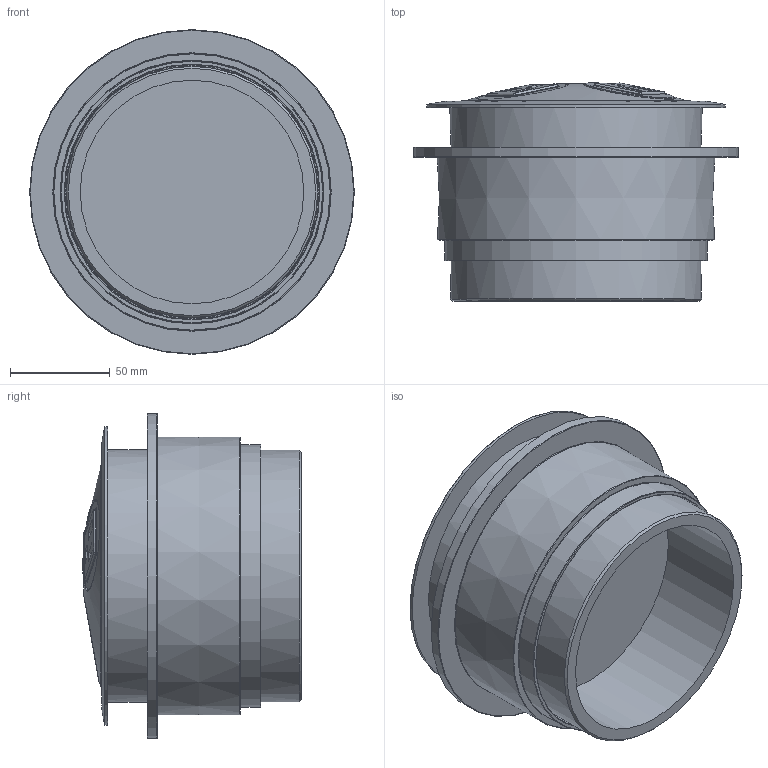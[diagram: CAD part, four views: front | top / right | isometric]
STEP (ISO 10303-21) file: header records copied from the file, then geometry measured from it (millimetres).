
FILE_DESCRIPTION((''),'2;1');
FILE_NAME('P:\Manufacturing\Autocad drawings\Inventor\blocks\Pandora - blocks\Pandora US1 + TUF.stp','2021-01-14T12:19:40',('ScottReyner'),(''),'Autodesk Inventor 2012','Autodesk Inventor 2012','');
FILE_SCHEMA(('AUTOMOTIVE_DESIGN { 1 0 10303 214 1 1 1 1 }'));
Length unit declared in the file: inch
Products named in the file (1): Part180
Bounding box: 163 x 109.69 x 163 mm (x, y, z)
Volume: 882850.7 mm3; surface area: 225315.3 mm2
Topology: 6 solids, 12 shells, 3474 faces, 9779 edges, 6313 vertices
Faces by surface type: plane 2130, cylinder 1041, bspline 177, torus 87, cone 30, sphere 9
Full cylindrical faces by diameter (mm): 0.5 x1, 0.7 x2, 0.8 x2, 1.2 x4, 5.106 x2, 5.5 x2, 6.6 x2, 41 x2, 42.6 x1, 44 x1, 44.776 x1, 44.8 x2, 45.198 x1, 45.2 x1, 45.209 x1, 45.228 x1, 45.915 x3, 112.27 x2, 116.1 x1, 127.913 x1, 163 x1
Entity records: 121948 total; most frequent: CARTESIAN_POINT 28368, ORIENTED_EDGE 19358, DIRECTION 18323, EDGE_CURVE 9679, VECTOR 7015, LINE 7015, VERTEX_POINT 6288, AXIS2_PLACEMENT_3D 5654
